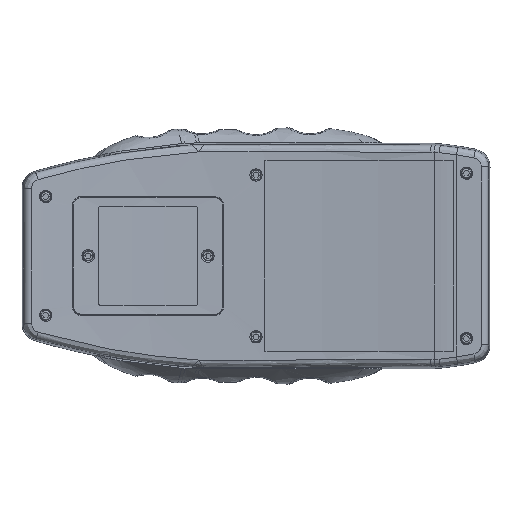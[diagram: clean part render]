
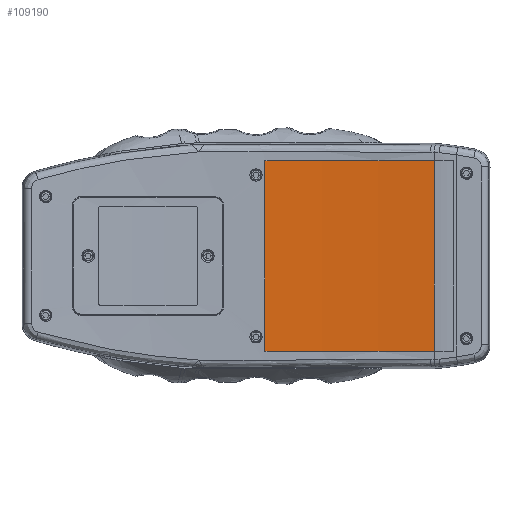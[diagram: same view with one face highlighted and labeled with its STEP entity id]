
A CAD part, top view. The second image highlights one B-rep face of the part: STEP entity #109190.
In plain terms, the highlighted cylindrical face has radius 900.5 mm (diameter 1801 mm), a partial arc.
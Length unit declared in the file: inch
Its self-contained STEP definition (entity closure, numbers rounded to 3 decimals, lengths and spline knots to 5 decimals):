
#10754 = CARTESIAN_POINT ( 'NONE',  ( 3.90724, 0., -0.04586 ) ) ;
#15915 = VECTOR ( 'NONE', #99315, 39.37008 ) ;
#17438 = EDGE_CURVE ( 'NONE', #43759, #74377, #122718, .T. ) ;
#19367 = LINE ( 'NONE', #55301, #15915 ) ;
#20828 = CARTESIAN_POINT ( 'NONE',  ( -0.49213, -2.08661, 35.13288 ) ) ;
#23091 = DIRECTION ( 'NONE',  ( 0., 1., 0. ) ) ;
#23984 = DIRECTION ( 'NONE',  ( 0., 0., 1. ) ) ;
#25444 = CYLINDRICAL_SURFACE ( 'NONE', #32758, 35.45276 ) ;
#31828 = DIRECTION ( 'NONE',  ( 0., 0., 1. ) ) ;
#32758 = AXIS2_PLACEMENT_3D ( 'NONE', #56441, #72185, #23984 ) ;
#39222 = AXIS2_PLACEMENT_3D ( 'NONE', #88492, #23091, #99540 ) ;
#43759 = VERTEX_POINT ( 'NONE', #74988 ) ;
#47579 = CARTESIAN_POINT ( 'NONE',  ( 3.90724, 2.08661, -0.04586 ) ) ;
#54128 = EDGE_CURVE ( 'NONE', #74377, #120941, #112246, .T. ) ;
#55301 = CARTESIAN_POINT ( 'NONE',  ( 0.19685, 0., -0.31318 ) ) ;
#56417 = CARTESIAN_POINT ( 'NONE',  ( 0.19685, 2.08661, -0.31318 ) ) ;
#56441 = CARTESIAN_POINT ( 'NONE',  ( -0.49213, -2.08661, 35.13288 ) ) ;
#64936 = ORIENTED_EDGE ( 'NONE', *, *, #17438, .T. ) ;
#70959 = CIRCLE ( 'NONE', #39222, 35.45276 ) ;
#72185 = DIRECTION ( 'NONE',  ( 0., 1., 0. ) ) ;
#74377 = VERTEX_POINT ( 'NONE', #77737 ) ;
#74988 = CARTESIAN_POINT ( 'NONE',  ( 0.19685, -2.08661, -0.31318 ) ) ;
#76172 = ORIENTED_EDGE ( 'NONE', *, *, #54128, .T. ) ;
#77737 = CARTESIAN_POINT ( 'NONE',  ( 3.90724, -2.08661, -0.04586 ) ) ;
#79615 = VECTOR ( 'NONE', #98182, 39.37008 ) ;
#88492 = CARTESIAN_POINT ( 'NONE',  ( -0.49213, 2.08661, 35.13288 ) ) ;
#90743 = VERTEX_POINT ( 'NONE', #56417 ) ;
#94388 = EDGE_CURVE ( 'NONE', #90743, #43759, #19367, .T. ) ;
#97253 = DIRECTION ( 'NONE',  ( 0., -1., 0. ) ) ;
#98182 = DIRECTION ( 'NONE',  ( 0., 1., 0. ) ) ;
#99315 = DIRECTION ( 'NONE',  ( 0., -1., 0. ) ) ;
#99540 = DIRECTION ( 'NONE',  ( 0., 0., 1. ) ) ;
#103447 = AXIS2_PLACEMENT_3D ( 'NONE', #20828, #97253, #31828 ) ;
#109190 = ADVANCED_FACE ( 'NONE', ( #112687 ), #25444, .F. ) ;
#112246 = LINE ( 'NONE', #10754, #79615 ) ;
#112687 = FACE_OUTER_BOUND ( 'NONE', #137066, .T. ) ;
#120941 = VERTEX_POINT ( 'NONE', #47579 ) ;
#122718 = CIRCLE ( 'NONE', #103447, 35.45276 ) ;
#127389 = ORIENTED_EDGE ( 'NONE', *, *, #94388, .T. ) ;
#128976 = ORIENTED_EDGE ( 'NONE', *, *, #135847, .T. ) ;
#135847 = EDGE_CURVE ( 'NONE', #120941, #90743, #70959, .T. ) ;
#137066 = EDGE_LOOP ( 'NONE', ( #128976, #127389, #64936, #76172 ) ) ;
